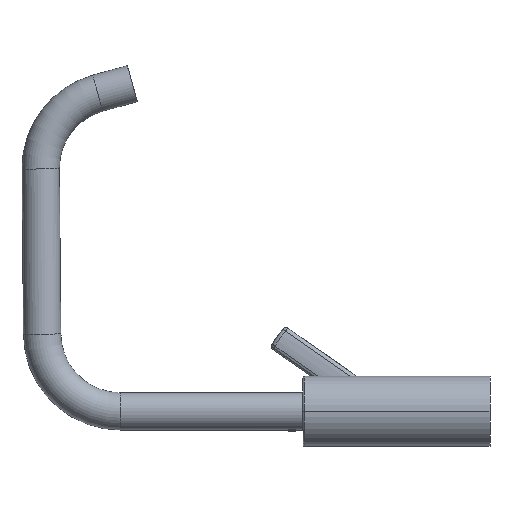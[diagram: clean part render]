
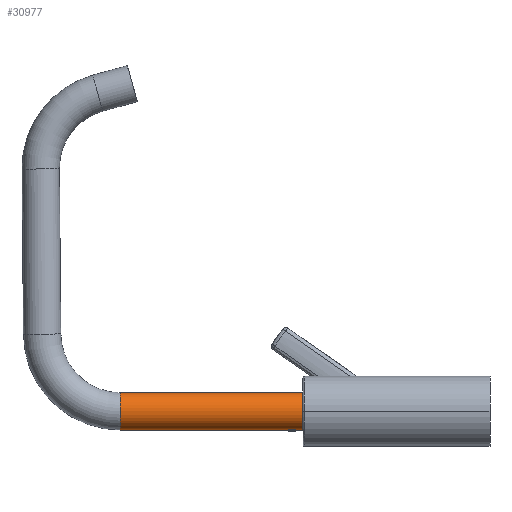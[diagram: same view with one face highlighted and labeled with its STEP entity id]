
A CAD part, left-side view. The second image highlights one B-rep face of the part: STEP entity #30977.
In plain terms, the highlighted cylindrical face has radius 12 mm (diameter 24 mm), a partial arc.
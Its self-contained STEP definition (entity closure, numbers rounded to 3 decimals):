
#29455=CARTESIAN_POINT('',(0.,123.694,-12.));
#29516=CARTESIAN_POINT('',(0.,130.194,-12.));
#29518=DIRECTION('',(0.,1.,0.));
#29519=VECTOR('',#29518,117.);
#29520=CARTESIAN_POINT('',(0.,120.444,12.));
#29521=LINE('',#29520,#29519);
#29522=CARTESIAN_POINT('',(0.,130.194,-12.));
#29523=CARTESIAN_POINT('',(-0.057,130.194,-12.));
#29524=CARTESIAN_POINT('',(-0.17,130.191,
-11.999));
#29525=CARTESIAN_POINT('',(-0.341,130.177,
-11.996));
#29526=CARTESIAN_POINT('',(-0.51,130.155,
-11.99));
#29527=CARTESIAN_POINT('',(-0.679,130.124,
-11.981));
#29528=CARTESIAN_POINT('',(-0.846,130.083,
-11.971));
#29529=CARTESIAN_POINT('',(-1.01,130.034,
-11.958));
#29530=CARTESIAN_POINT('',(-1.173,129.976,
-11.943));
#29531=CARTESIAN_POINT('',(-1.333,129.91,
-11.926));
#29532=CARTESIAN_POINT('',(-1.489,129.834,
-11.908));
#29533=CARTESIAN_POINT('',(-1.642,129.75,
-11.887));
#29534=CARTESIAN_POINT('',(-1.79,129.658,
-11.866));
#29535=CARTESIAN_POINT('',(-1.934,129.558,
-11.843));
#29536=CARTESIAN_POINT('',(-2.072,129.45,
-11.82));
#29537=CARTESIAN_POINT('',(-2.204,129.334,
-11.796));
#29538=CARTESIAN_POINT('',(-2.33,129.211,
-11.772));
#29539=CARTESIAN_POINT('',(-2.45,129.082,
-11.748));
#29540=CARTESIAN_POINT('',(-2.561,128.947,
-11.724));
#29541=CARTESIAN_POINT('',(-2.666,128.805,
-11.7));
#29542=CARTESIAN_POINT('',(-2.762,128.659,
-11.678));
#29543=CARTESIAN_POINT('',(-2.85,128.509,
-11.657));
#29544=CARTESIAN_POINT('',(-2.93,128.354,
-11.637));
#29545=CARTESIAN_POINT('',(-3.001,128.196,
-11.619));
#29546=CARTESIAN_POINT('',(-3.063,128.034,
-11.603));
#29547=CARTESIAN_POINT('',(-3.117,127.871,
-11.588));
#29548=CARTESIAN_POINT('',(-3.161,127.705,
-11.576));
#29549=CARTESIAN_POINT('',(-3.197,127.537,
-11.566));
#29550=CARTESIAN_POINT('',(-3.224,127.369,
-11.559));
#29551=CARTESIAN_POINT('',(-3.241,127.199,
-11.554));
#29552=CARTESIAN_POINT('',(-3.25,127.029,
-11.551));
#29553=CARTESIAN_POINT('',(-3.25,126.859,
-11.551));
#29554=CARTESIAN_POINT('',(-3.241,126.688,
-11.554));
#29555=CARTESIAN_POINT('',(-3.224,126.519,
-11.559));
#29556=CARTESIAN_POINT('',(-3.197,126.35,
-11.566));
#29557=CARTESIAN_POINT('',(-3.161,126.183,
-11.576));
#29558=CARTESIAN_POINT('',(-3.117,126.017,
-11.588));
#29559=CARTESIAN_POINT('',(-3.063,125.853,
-11.603));
#29560=CARTESIAN_POINT('',(-3.001,125.692,
-11.619));
#29561=CARTESIAN_POINT('',(-2.93,125.534,
-11.637));
#29562=CARTESIAN_POINT('',(-2.85,125.379,
-11.657));
#29563=CARTESIAN_POINT('',(-2.762,125.228,
-11.678));
#29564=CARTESIAN_POINT('',(-2.666,125.082,
-11.7));
#29565=CARTESIAN_POINT('',(-2.561,124.941,
-11.724));
#29566=CARTESIAN_POINT('',(-2.45,124.805,
-11.748));
#29567=CARTESIAN_POINT('',(-2.33,124.676,
-11.772));
#29568=CARTESIAN_POINT('',(-2.204,124.553,
-11.796));
#29569=CARTESIAN_POINT('',(-2.072,124.438,
-11.82));
#29570=CARTESIAN_POINT('',(-1.934,124.33,
-11.843));
#29571=CARTESIAN_POINT('',(-1.79,124.229,
-11.866));
#29572=CARTESIAN_POINT('',(-1.642,124.137,
-11.887));
#29573=CARTESIAN_POINT('',(-1.489,124.053,
-11.908));
#29574=CARTESIAN_POINT('',(-1.333,123.978,
-11.926));
#29575=CARTESIAN_POINT('',(-1.173,123.911,
-11.943));
#29576=CARTESIAN_POINT('',(-1.01,123.853,
-11.958));
#29577=CARTESIAN_POINT('',(-0.845,123.804,
-11.971));
#29578=CARTESIAN_POINT('',(-0.679,123.764,
-11.981));
#29579=CARTESIAN_POINT('',(-0.51,123.733,
-11.99));
#29580=CARTESIAN_POINT('',(-0.341,123.71,
-11.996));
#29581=CARTESIAN_POINT('',(-0.17,123.697,
-11.999));
#29582=CARTESIAN_POINT('',(-0.057,123.694,-12.));
#29583=CARTESIAN_POINT('',(0.,123.694,-12.));
#29585=DIRECTION('',(0.,1.,0.));
#29586=VECTOR('',#29585,107.25);
#29587=CARTESIAN_POINT('',(0.,130.194,-12.));
#29588=LINE('',#29587,#29586);
#29589=DIRECTION('',(0.,1.,0.));
#29590=VECTOR('',#29589,3.25);
#29591=CARTESIAN_POINT('',(0.,120.444,-12.));
#29592=LINE('',#29591,#29590);
#29601=CARTESIAN_POINT('',(0.,237.444,0.));
#29602=DIRECTION('',(0.,1.,0.));
#29603=DIRECTION('',(0.,0.,-1.));
#29604=AXIS2_PLACEMENT_3D('',#29601,#29602,#29603);
#29692=CARTESIAN_POINT('',(0.,120.444,0.));
#29693=DIRECTION('',(0.,1.,0.));
#29694=DIRECTION('',(0.,0.,-1.));
#29695=AXIS2_PLACEMENT_3D('',#29692,#29693,#29694);
#30690=CARTESIAN_POINT('',(0.,120.444,12.));
#30691=CARTESIAN_POINT('',(0.,120.444,-12.));
#30692=VERTEX_POINT('',#30690);
#30693=VERTEX_POINT('',#30691);
#30694=CARTESIAN_POINT('',(0.,237.444,12.));
#30695=CARTESIAN_POINT('',(0.,237.444,-12.));
#30696=VERTEX_POINT('',#30694);
#30697=VERTEX_POINT('',#30695);
#30762=VERTEX_POINT('',#29455);
#30763=VERTEX_POINT('',#29516);
#30961=CARTESIAN_POINT('',(0.,120.444,0.));
#30962=DIRECTION('',(0.,1.,0.));
#30963=DIRECTION('',(0.,0.,1.));
#30964=AXIS2_PLACEMENT_3D('',#30961,#30962,#30963);
#30965=CYLINDRICAL_SURFACE('',#30964,12.);
#30967=ORIENTED_EDGE('',*,*,#30966,.F.);
#30968=ORIENTED_EDGE('',*,*,#30956,.T.);
#30970=ORIENTED_EDGE('',*,*,#30969,.T.);
#30971=ORIENTED_EDGE('',*,*,#30952,.F.);
#30973=ORIENTED_EDGE('',*,*,#30972,.F.);
#30974=ORIENTED_EDGE('',*,*,#30948,.T.);
#30975=EDGE_LOOP('',(#30967,#30968,#30970,#30971,#30973,#30974));
#30976=FACE_OUTER_BOUND('',#30975,.F.);
#30977=ADVANCED_FACE('',(#30976),#30965,.T.);
#29584=B_SPLINE_CURVE_WITH_KNOTS('',3,(#29522,#29523,#29524,#29525,#29526,
#29527,#29528,#29529,#29530,#29531,#29532,#29533,#29534,#29535,#29536,#29537,
#29538,#29539,#29540,#29541,#29542,#29543,#29544,#29545,#29546,#29547,#29548,
#29549,#29550,#29551,#29552,#29553,#29554,#29555,#29556,#29557,#29558,#29559,
#29560,#29561,#29562,#29563,#29564,#29565,#29566,#29567,#29568,#29569,#29570,
#29571,#29572,#29573,#29574,#29575,#29576,#29577,#29578,#29579,#29580,#29581,
#29582,#29583),.UNSPECIFIED.,.F.,.F.,(4,1,1,1,1,1,1,1,1,1,1,1,1,1,1,1,1,1,1,1,1,
1,1,1,1,1,1,1,1,1,1,1,1,1,1,1,1,1,1,1,1,1,1,1,1,1,1,1,1,1,1,1,1,1,1,1,1,1,1,4),(
0.,0.017,0.034,0.051,0.068,
0.085,0.102,0.119,0.136,
0.153,0.169,0.186,0.203,
0.22,0.237,0.254,0.271,
0.288,0.305,0.322,0.339,
0.356,0.373,0.39,0.407,
0.424,0.441,0.458,0.475,
0.492,0.508,0.525,0.542,
0.559,0.576,0.593,0.61,
0.627,0.644,0.661,0.678,
0.695,0.712,0.729,0.746,
0.763,0.78,0.797,0.814,
0.831,0.847,0.864,0.881,
0.898,0.915,0.932,0.949,
0.966,0.983,1.),.UNSPECIFIED.);
#29605=CIRCLE('',#29604,12.);
#29696=CIRCLE('',#29695,12.);
#30948=EDGE_CURVE('',#30693,#30762,#29592,.T.);
#30952=EDGE_CURVE('',#30692,#30696,#29521,.T.);
#30956=EDGE_CURVE('',#30763,#30697,#29588,.T.);
#30966=EDGE_CURVE('',#30763,#30762,#29584,.T.);
#30969=EDGE_CURVE('',#30697,#30696,#29605,.T.);
#30972=EDGE_CURVE('',#30693,#30692,#29696,.T.);
